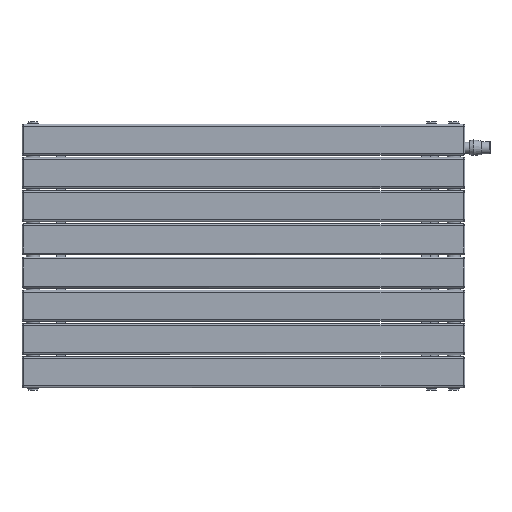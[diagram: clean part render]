
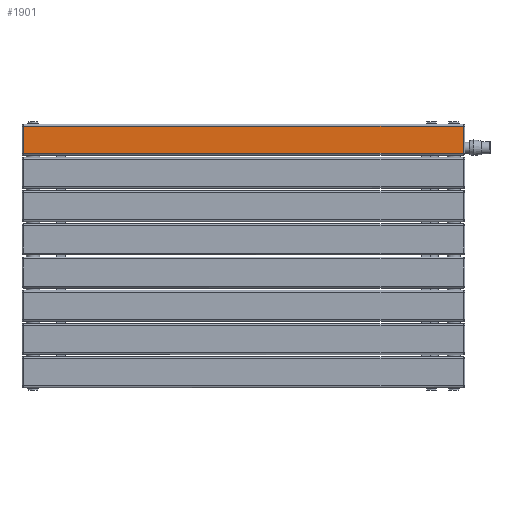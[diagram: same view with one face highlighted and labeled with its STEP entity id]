
A CAD part, top view. The second image highlights one B-rep face of the part: STEP entity #1901.
In plain terms, the highlighted planar face has unit normal (0, 0, 1) as drawn and (0, -1, 0) by its records, which use the part's own axes.
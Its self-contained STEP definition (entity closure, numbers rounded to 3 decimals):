
#349=LINE('',#3048,#473);
#352=LINE('',#3061,#476);
#355=LINE('',#3069,#479);
#356=LINE('',#3075,#480);
#473=VECTOR('',#2396,10.);
#476=VECTOR('',#2413,10.);
#479=VECTOR('',#2422,10.);
#480=VECTOR('',#2433,10.);
#592=PLANE('',#2103);
#702=FACE_OUTER_BOUND('',#819,.T.);
#819=EDGE_LOOP('',(#1464,#1465,#1466,#1467));
#1033=VERTEX_POINT('',#3045);
#1034=VERTEX_POINT('',#3047);
#1037=VERTEX_POINT('',#3059);
#1039=VERTEX_POINT('',#3067);
#1191=EDGE_CURVE('',#1033,#1034,#349,.T.);
#1198=EDGE_CURVE('',#1033,#1037,#352,.T.);
#1202=EDGE_CURVE('',#1039,#1037,#355,.T.);
#1205=EDGE_CURVE('',#1034,#1039,#356,.T.);
#1464=ORIENTED_EDGE('',*,*,#1191,.F.);
#1465=ORIENTED_EDGE('',*,*,#1198,.T.);
#1466=ORIENTED_EDGE('',*,*,#1202,.F.);
#1467=ORIENTED_EDGE('',*,*,#1205,.F.);
#1901=ADVANCED_FACE('',(#702),#592,.T.);
#2103=AXIS2_PLACEMENT_3D('',#3076,#2434,#2435);
#2396=DIRECTION('',(-1.,0.,0.));
#2413=DIRECTION('',(0.,0.,1.));
#2422=DIRECTION('',(1.,0.,0.));
#2433=DIRECTION('',(0.,0.,1.));
#2434=DIRECTION('center_axis',(0.,-1.,0.));
#2435=DIRECTION('ref_axis',(1.,0.,0.));
#3045=CARTESIAN_POINT('',(31.,-8.,-496.));
#3047=CARTESIAN_POINT('',(-31.,-8.,-496.));
#3048=CARTESIAN_POINT('',(-15.5,-8.,-496.));
#3059=CARTESIAN_POINT('',(31.,-8.,496.));
#3061=CARTESIAN_POINT('',(31.,-8.,0.));
#3067=CARTESIAN_POINT('',(-31.,-8.,496.));
#3069=CARTESIAN_POINT('',(-15.5,-8.,496.));
#3075=CARTESIAN_POINT('',(-31.,-8.,0.));
#3076=CARTESIAN_POINT('Origin',(-31.,-8.,0.));
